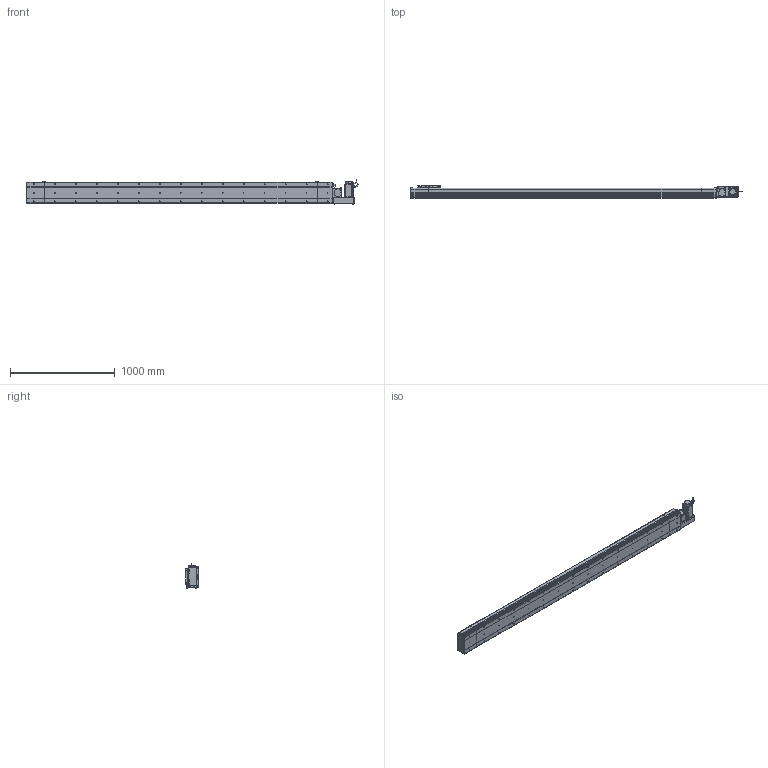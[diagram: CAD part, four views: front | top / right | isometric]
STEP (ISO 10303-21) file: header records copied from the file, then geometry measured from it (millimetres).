
FILE_DESCRIPTION (( 'STEP AP214' ), '1' );
FILE_NAME ('D20 CBH RH S2600.STEP', '2010-06-30T10:20:59', ( 'Conseil Régional Haute-Normandie' ), ( 'Conseil Régional Haute-Normandie' ), 'SwSTEP 2.0', 'SolidWorks 2010', '' );
FILE_SCHEMA (( 'AUTOMOTIVE_DESIGN' ));
Length unit declared in the file: millimetre
Products named in the file (31): avant 90BLDC125A-640; Rondelle Cache D20 RH_Default; Plaque De Serrage D20 RH_Default; Corp Tail D20 RH_Default; Head D20 RH_Default; Couvercle RH_Default; Plaque de Bout Head D20 RH_Default; D20 CBH RH S2600; Support moteur RH_Default; corps 90BLDC125A-640; Conecteur2_Default; Corp D20 S2600_Default; vis M5 L47_Default; Cache Support Moteur RH_Default; vis M5 L30_Default; Chariot D20_Default; Couvercle S2600_Default; Corp S2600_Default; Support Chariot D20_Default; Couvercle_Default; Corp Tail D20_Default; Tail D20_Default; Glissiere_Default; vis M5 L15_Default; Plaque De Serrage D20_Default; Plaque de Bout Tail D20_Default; Moteur motionking 90BLDC125A-640; ecrou_Default; codeur 90BLDC125-640; Conecteur_Default
Assembly tree (68 placements, depth 4):
  D20 CBH RH S2600
    Head D20 RH_Default
      Rondelle Cache D20 RH_Default  x3
      vis M5 L15_Default  x14
      Cache Support Moteur RH_Default
      Corp Tail D20 RH_Default
      Moteur motionking 90BLDC125A-640
        corps 90BLDC125A-640
        codeur 90BLDC125-640
        Conecteur2_Default
        Conecteur_Default
        avant 90BLDC125A-640
      vis M5 L30_Default  x4
      ecrou_Default  x4
      vis M5 L47_Default  x4
      Plaque de Bout Head D20 RH_Default
      Plaque De Serrage D20 RH_Default
      Support moteur RH_Default
      Couvercle RH_Default
    Corp D20 S2600_Default
      Corp S2600_Default
      Couvercle S2600_Default
    Tail D20_Default
      vis M5 L15_Default  x6
      Couvercle_Default
      Plaque de Bout Tail D20_Default
      Plaque De Serrage D20_Default
      Corp Tail D20_Default
    Chariot D20_Default
      vis M5 L15_Default  x8
      Chariot D20_Default
      Glissiere_Default
      Support Chariot D20_Default
Bounding box: 3165.45 x 119.5 x 229.7 mm (x, y, z)
Volume: 20715135.1 mm3; surface area: 4005424.5 mm2
Topology: 105 solids, 105 shells, 3844 faces, 9552 edges, 6202 vertices
Faces by surface type: plane 2137, bspline 806, cylinder 730, torus 95, cone 72, sphere 4
Entity records: 160142 total; most frequent: CARTESIAN_POINT 82430, ORIENTED_EDGE 15372, DIRECTION 11758, EDGE_CURVE 7686, VERTEX_POINT 5086, VECTOR 4954, LINE 4954, AXIS2_PLACEMENT_3D 3402
